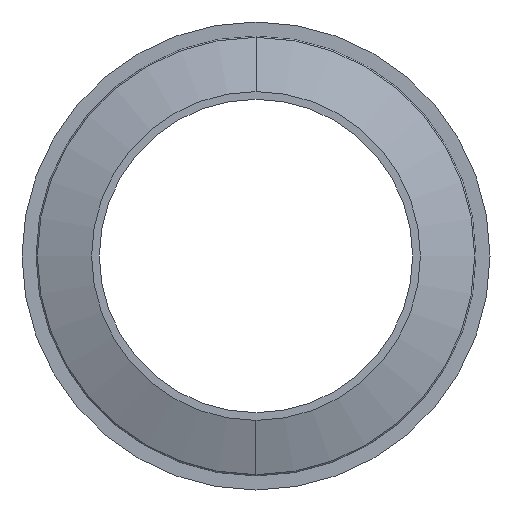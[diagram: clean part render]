
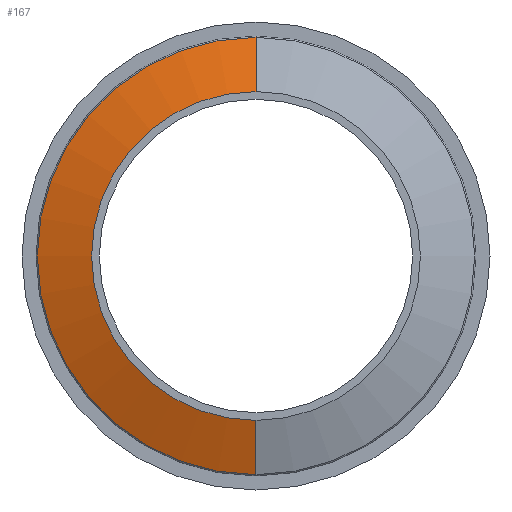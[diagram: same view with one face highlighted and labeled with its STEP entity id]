
A CAD part, left-side view. The second image highlights one B-rep face of the part: STEP entity #167.
In plain terms, the highlighted conical face has half-angle 70 degrees and reference radius 56.527 mm.
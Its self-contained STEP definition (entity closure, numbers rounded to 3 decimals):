
#8 = DIRECTION ( 'NONE',  ( -1., 0., 0. ) ) ;
#37 = FACE_OUTER_BOUND ( 'NONE', #512, .T. ) ;
#39 = ORIENTED_EDGE ( 'NONE', *, *, #348, .F. ) ;
#54 = DIRECTION ( 'NONE',  ( -1., 0., 0. ) ) ;
#73 = EDGE_CURVE ( 'NONE', #521, #483, #80, .T. ) ;
#75 = CARTESIAN_POINT ( 'NONE',  ( -11.214, 0., 0. ) ) ;
#78 = DIRECTION ( 'NONE',  ( 0., 0., -1. ) ) ;
#80 = LINE ( 'NONE', #331, #139 ) ;
#90 = CARTESIAN_POINT ( 'NONE',  ( -16.319, 0., 0. ) ) ;
#102 = ORIENTED_EDGE ( 'NONE', *, *, #292, .T. ) ;
#133 = LINE ( 'NONE', #427, #444 ) ;
#139 = VECTOR ( 'NONE', #415, 1000. ) ;
#167 = ADVANCED_FACE ( 'NONE', ( #37 ), #208, .T. ) ;
#172 = AXIS2_PLACEMENT_3D ( 'NONE', #75, #487, #78 ) ;
#174 = DIRECTION ( 'NONE',  ( 0., 0., 1. ) ) ;
#179 = DIRECTION ( 'NONE',  ( 0., 0., 1. ) ) ;
#208 = CONICAL_SURFACE ( 'NONE', #172, 56.527, 1.222 ) ;
#218 = CARTESIAN_POINT ( 'NONE',  ( -11.214, 0., 0. ) ) ;
#266 = EDGE_CURVE ( 'NONE', #514, #302, #133, .T. ) ;
#267 = ORIENTED_EDGE ( 'NONE', *, *, #73, .T. ) ;
#292 = EDGE_CURVE ( 'NONE', #483, #302, #390, .T. ) ;
#296 = CARTESIAN_POINT ( 'NONE',  ( -16.319, 0., 42.5 ) ) ;
#302 = VERTEX_POINT ( 'NONE', #499 ) ;
#331 = CARTESIAN_POINT ( 'NONE',  ( -11.214, 0., 56.527 ) ) ;
#348 = EDGE_CURVE ( 'NONE', #521, #514, #437, .T. ) ;
#386 = DIRECTION ( 'NONE',  ( 0.342, 0., -0.94 ) ) ;
#390 = CIRCLE ( 'NONE', #520, 56.527 ) ;
#397 = AXIS2_PLACEMENT_3D ( 'NONE', #90, #54, #179 ) ;
#415 = DIRECTION ( 'NONE',  ( 0.342, 0., 0.94 ) ) ;
#427 = CARTESIAN_POINT ( 'NONE',  ( -11.214, 0., -56.527 ) ) ;
#437 = CIRCLE ( 'NONE', #397, 42.5 ) ;
#444 = VECTOR ( 'NONE', #386, 1000. ) ;
#449 = CARTESIAN_POINT ( 'NONE',  ( -11.214, 0., 56.527 ) ) ;
#455 = CARTESIAN_POINT ( 'NONE',  ( -16.319, 0., -42.5 ) ) ;
#460 = ORIENTED_EDGE ( 'NONE', *, *, #266, .F. ) ;
#483 = VERTEX_POINT ( 'NONE', #449 ) ;
#487 = DIRECTION ( 'NONE',  ( 1., 0., 0. ) ) ;
#499 = CARTESIAN_POINT ( 'NONE',  ( -11.214, 0., -56.527 ) ) ;
#512 = EDGE_LOOP ( 'NONE', ( #39, #267, #102, #460 ) ) ;
#514 = VERTEX_POINT ( 'NONE', #455 ) ;
#520 = AXIS2_PLACEMENT_3D ( 'NONE', #218, #8, #174 ) ;
#521 = VERTEX_POINT ( 'NONE', #296 ) ;
